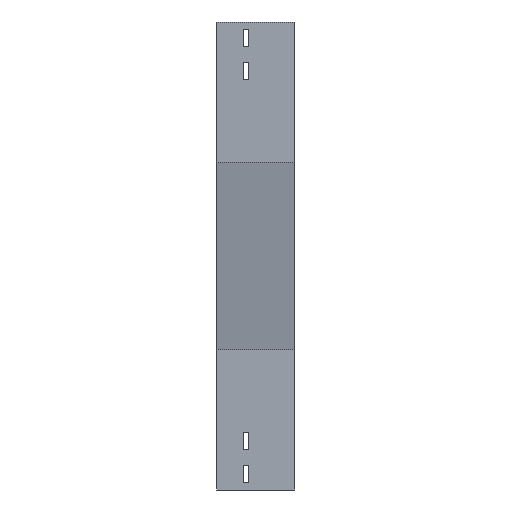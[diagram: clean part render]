
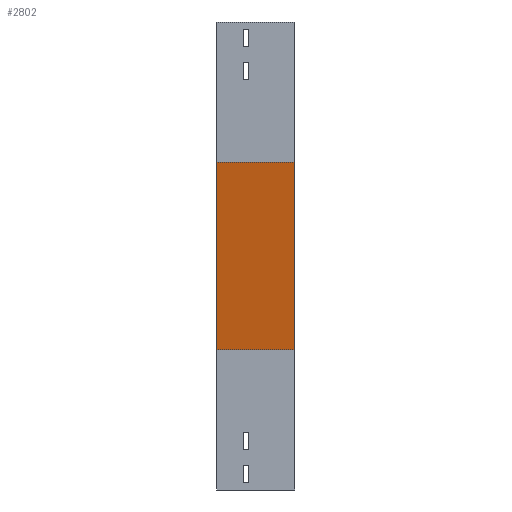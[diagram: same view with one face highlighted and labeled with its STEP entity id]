
A CAD part, left-side view. The second image highlights one B-rep face of the part: STEP entity #2802.
In plain terms, the highlighted planar face has unit normal (-0.979, 0, -0.204).
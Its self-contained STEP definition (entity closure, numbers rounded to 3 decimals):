
#50 = ORIENTED_EDGE ( 'NONE', *, *, #3887, .T. ) ;
#330 = VERTEX_POINT ( 'NONE', #1929 ) ;
#334 = CARTESIAN_POINT ( 'NONE',  ( 0., 0., -180. ) ) ;
#438 = DIRECTION ( 'NONE',  ( 0.204, 0., -0.979 ) ) ;
#454 = CARTESIAN_POINT ( 'NONE',  ( 50., 0., -420. ) ) ;
#518 = CARTESIAN_POINT ( 'NONE',  ( 0., 0., -180. ) ) ;
#605 = ORIENTED_EDGE ( 'NONE', *, *, #2311, .F. ) ;
#636 = CARTESIAN_POINT ( 'NONE',  ( 0., 0., -180. ) ) ;
#733 = DIRECTION ( 'NONE',  ( 0.204, 0., -0.979 ) ) ;
#834 = DIRECTION ( 'NONE',  ( 0., -1., 0. ) ) ;
#878 = CARTESIAN_POINT ( 'NONE',  ( 50., 100., -420. ) ) ;
#919 = CARTESIAN_POINT ( 'NONE',  ( 50., 0., -420. ) ) ;
#943 = VERTEX_POINT ( 'NONE', #878 ) ;
#1457 = VECTOR ( 'NONE', #438, 1000. ) ;
#1621 = VECTOR ( 'NONE', #1857, 1000. ) ;
#1857 = DIRECTION ( 'NONE',  ( 0.204, 0., -0.979 ) ) ;
#1929 = CARTESIAN_POINT ( 'NONE',  ( 0., 100., -180. ) ) ;
#1939 = DIRECTION ( 'NONE',  ( 0.979, 0., 0.204 ) ) ;
#2265 = CARTESIAN_POINT ( 'NONE',  ( 0., 100., -180. ) ) ;
#2271 = AXIS2_PLACEMENT_3D ( 'NONE', #3192, #1939, #733 ) ;
#2272 = EDGE_CURVE ( 'NONE', #3893, #943, #3678, .T. ) ;
#2311 = EDGE_CURVE ( 'NONE', #3794, #3893, #3394, .T. ) ;
#2717 = VECTOR ( 'NONE', #2770, 1000. ) ;
#2770 = DIRECTION ( 'NONE',  ( 0., 1., 0. ) ) ;
#2802 = ADVANCED_FACE ( 'NONE', ( #3499 ), #3518, .F. ) ;
#2987 = VECTOR ( 'NONE', #834, 1000. ) ;
#3151 = LINE ( 'NONE', #2265, #1457 ) ;
#3192 = CARTESIAN_POINT ( 'NONE',  ( 0., 0., -180. ) ) ;
#3278 = LINE ( 'NONE', #518, #2987 ) ;
#3305 = ORIENTED_EDGE ( 'NONE', *, *, #2272, .F. ) ;
#3394 = LINE ( 'NONE', #636, #1621 ) ;
#3431 = ORIENTED_EDGE ( 'NONE', *, *, #3766, .F. ) ;
#3499 = FACE_OUTER_BOUND ( 'NONE', #3719, .T. ) ;
#3518 = PLANE ( 'NONE',  #2271 ) ;
#3678 = LINE ( 'NONE', #919, #2717 ) ;
#3719 = EDGE_LOOP ( 'NONE', ( #605, #3431, #50, #3305 ) ) ;
#3766 = EDGE_CURVE ( 'NONE', #330, #3794, #3278, .T. ) ;
#3794 = VERTEX_POINT ( 'NONE', #334 ) ;
#3887 = EDGE_CURVE ( 'NONE', #330, #943, #3151, .T. ) ;
#3893 = VERTEX_POINT ( 'NONE', #454 ) ;
